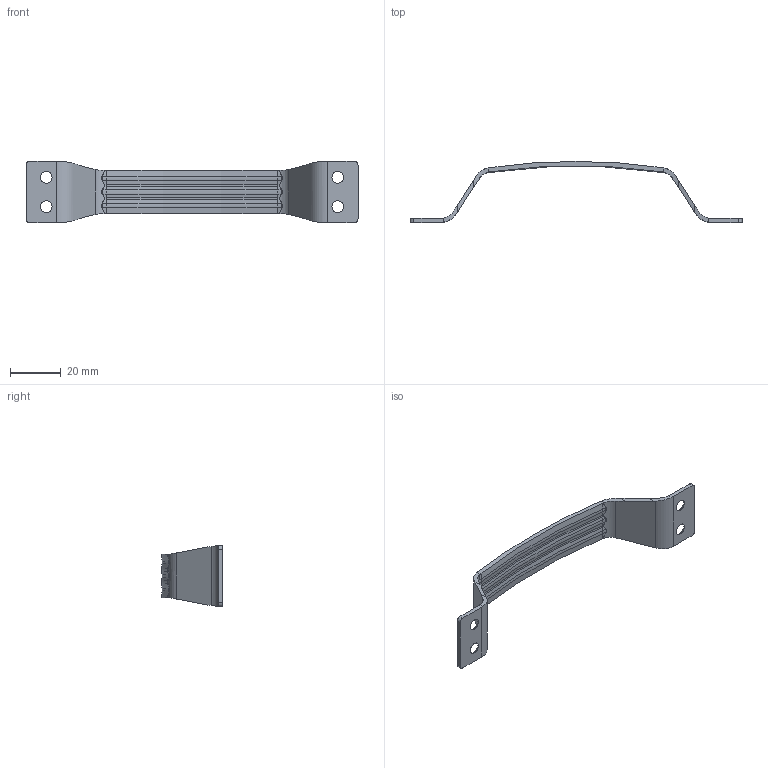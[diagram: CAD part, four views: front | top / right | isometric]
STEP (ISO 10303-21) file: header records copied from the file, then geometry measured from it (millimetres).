
FILE_DESCRIPTION(/* description */ (''),/* implementation_level */ '2;1');
FILE_NAME(/* name */ '\\NAS\db20\A-PT3\DR_A-PT3.stp',/* time_stamp */ '2017-07-13T15:53:41+09:00',/* author */ ('user'),/* organization */ (''),/* preprocessor_version */ 'ST-DEVELOPER v15.6',/* originating_system */ 'Autodesk Inventor 2015',/* authorisation */ '');
FILE_SCHEMA (('AUTOMOTIVE_DESIGN { 1 0 10303 214 3 1 1 }'));
Length unit declared in the file: millimetre
Products named in the file (1): DR_A-PT3
Bounding box: 130.5 x 24 x 24 mm (x, y, z)
Volume: 4497.8 mm3; surface area: 6330.3 mm2
Topology: 1 solids, 1 shells, 136 faces, 338 edges, 204 vertices
Faces by surface type: cylinder 44, plane 44, bspline 22, cone 16, torus 10
Full cylindrical faces by diameter (mm): 4.5 x4
Entity records: 4474 total; most frequent: CARTESIAN_POINT 1317, DIRECTION 658, ORIENTED_EDGE 652, EDGE_CURVE 326, AXIS2_PLACEMENT_3D 267, VERTEX_POINT 200, EDGE_LOOP 152, FACE_OUTER_BOUND 136
